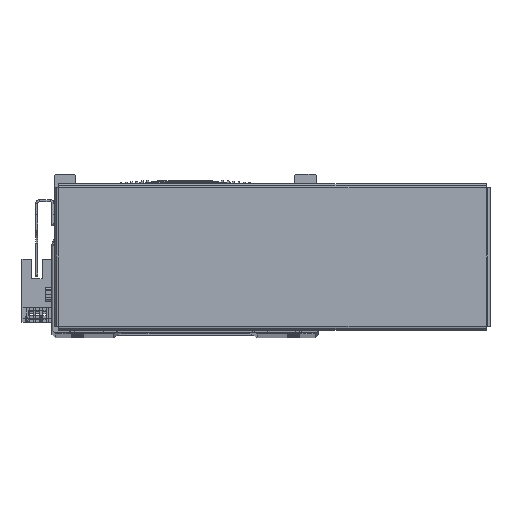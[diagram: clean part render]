
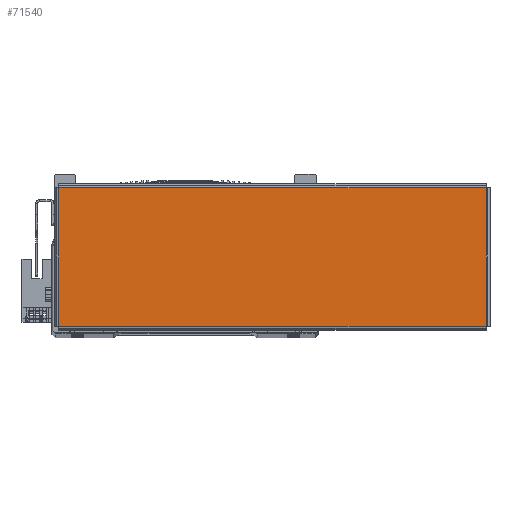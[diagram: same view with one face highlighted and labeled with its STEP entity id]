
A CAD part, top view. The second image highlights one B-rep face of the part: STEP entity #71540.
In plain terms, the highlighted planar face has unit normal (0, 0, 1) as drawn and (0, 0, -1) by its records, which use the part's own axes.
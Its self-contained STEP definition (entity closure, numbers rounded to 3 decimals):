
#17907 = ORIENTED_EDGE ( 'NONE', *, *, #36535, .T. ) ;
#17925 = ORIENTED_EDGE ( 'NONE', *, *, #36515, .T. ) ;
#17933 = ORIENTED_EDGE ( 'NONE', *, *, #36491, .T. ) ;
#17953 = ORIENTED_EDGE ( 'NONE', *, *, #36541, .T. ) ;
#19304 = DIRECTION ( 'NONE',  ( 1., 0., 0. ) ) ;
#19310 = CARTESIAN_POINT ( 'NONE',  ( -97.893, 31.763, -1. ) ) ;
#19358 = CARTESIAN_POINT ( 'NONE',  ( -97.863, -31.793, -1. ) ) ;
#19363 = DIRECTION ( 'NONE',  ( 0., 1., 0. ) ) ;
#19395 = DIRECTION ( 'NONE',  ( 0., -1., 0. ) ) ;
#19431 = CARTESIAN_POINT ( 'NONE',  ( 97.863, 31.793, -1. ) ) ;
#19440 = CARTESIAN_POINT ( 'NONE',  ( 97.893, -31.763, -1. ) ) ;
#19442 = DIRECTION ( 'NONE',  ( -1., 0., 0. ) ) ;
#21114 = VECTOR ( 'NONE', #19363, 1000. ) ;
#21131 = LINE ( 'NONE', #19310, #21153 ) ;
#21132 = LINE ( 'NONE', #19358, #21114 ) ;
#21153 = VECTOR ( 'NONE', #19304, 1000. ) ;
#21177 = VECTOR ( 'NONE', #19395, 1000. ) ;
#21179 = LINE ( 'NONE', #19431, #21177 ) ;
#21214 = LINE ( 'NONE', #19440, #21227 ) ;
#21227 = VECTOR ( 'NONE', #19442, 1000. ) ;
#36491 = EDGE_CURVE ( 'NONE', #76999, #76992, #21131, .T. ) ;
#36515 = EDGE_CURVE ( 'NONE', #76963, #76999, #21132, .T. ) ;
#36535 = EDGE_CURVE ( 'NONE', #76992, #76953, #21179, .T. ) ;
#36541 = EDGE_CURVE ( 'NONE', #76953, #76963, #21214, .T. ) ;
#44588 = CARTESIAN_POINT ( 'NONE',  ( -97.863, -31.763, -1. ) ) ;
#44643 = CARTESIAN_POINT ( 'NONE',  ( 97.863, -31.763, -1. ) ) ;
#44730 = CARTESIAN_POINT ( 'NONE',  ( -97.863, 31.763, -1. ) ) ;
#44777 = CARTESIAN_POINT ( 'NONE',  ( 97.863, 31.763, -1. ) ) ;
#50756 = EDGE_LOOP ( 'NONE', ( #17907, #17953, #17925, #17933 ) ) ;
#51934 = PLANE ( 'NONE',  #75320 ) ;
#51998 = CARTESIAN_POINT ( 'NONE',  ( 0., 0., -1. ) ) ;
#52002 = DIRECTION ( 'NONE',  ( 0., 0., 1. ) ) ;
#52004 = DIRECTION ( 'NONE',  ( 1., 0., 0. ) ) ;
#64112 = FACE_OUTER_BOUND ( 'NONE', #50756, .T. ) ;
#71540 = ADVANCED_FACE ( 'NONE', ( #64112 ), #51934, .F. ) ;
#75320 = AXIS2_PLACEMENT_3D ( 'NONE', #51998, #52002, #52004 ) ;
#76953 = VERTEX_POINT ( 'NONE', #44643 ) ;
#76963 = VERTEX_POINT ( 'NONE', #44588 ) ;
#76992 = VERTEX_POINT ( 'NONE', #44777 ) ;
#76999 = VERTEX_POINT ( 'NONE', #44730 ) ;
